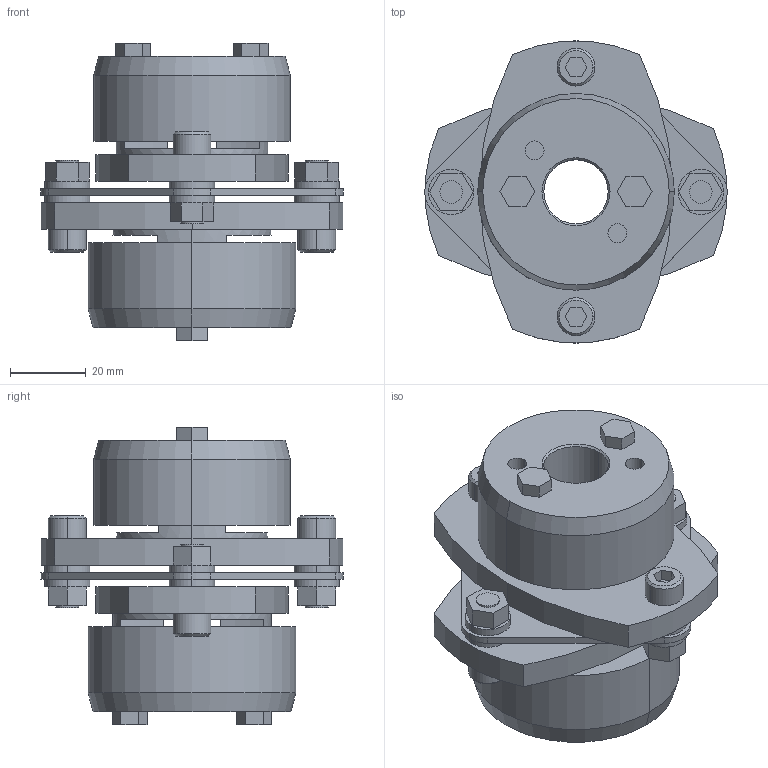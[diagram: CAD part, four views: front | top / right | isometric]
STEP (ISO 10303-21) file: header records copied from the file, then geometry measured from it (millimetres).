
FILE_DESCRIPTION((''),'2;1');
FILE_NAME('LCS-80T7-17×19.stp','2011-09-12T14:52:33',(''),(''),'AutoCAD STEP 2000i','AutoCAD 2000i',', , ');
FILE_SCHEMA(('CONFIG_CONTROL_DESIGN'));
Length unit declared in the file: millimetre
Products named in the file (6): LCS-80T7-17×19; 忣兜1; LC80T7-T019; LC80T7-T017-1; LC80T7-T017; LCS80-ITA
Assembly tree (5 placements, depth 2):
  LCS-80T7-17×19
    忣兜1
    LC80T7-T019
    LC80T7-T017-1
    LC80T7-T017
    LCS80-ITA
Bounding box: 80 x 79.95 x 78.75 mm (x, y, z)
Volume: 148177.5 mm3; surface area: 41809.7 mm2
Topology: 1 solids, 1 shells, 218 faces, 532 edges, 348 vertices
Faces by surface type: plane 118, cylinder 80, cone 20
Entity records: 6633 total; most frequent: DIRECTION 1176, CARTESIAN_POINT 1104, ORIENTED_EDGE 1064, EDGE_CURVE 532, AXIS2_PLACEMENT_3D 420, VERTEX_POINT 348, VECTOR 336, LINE 336
